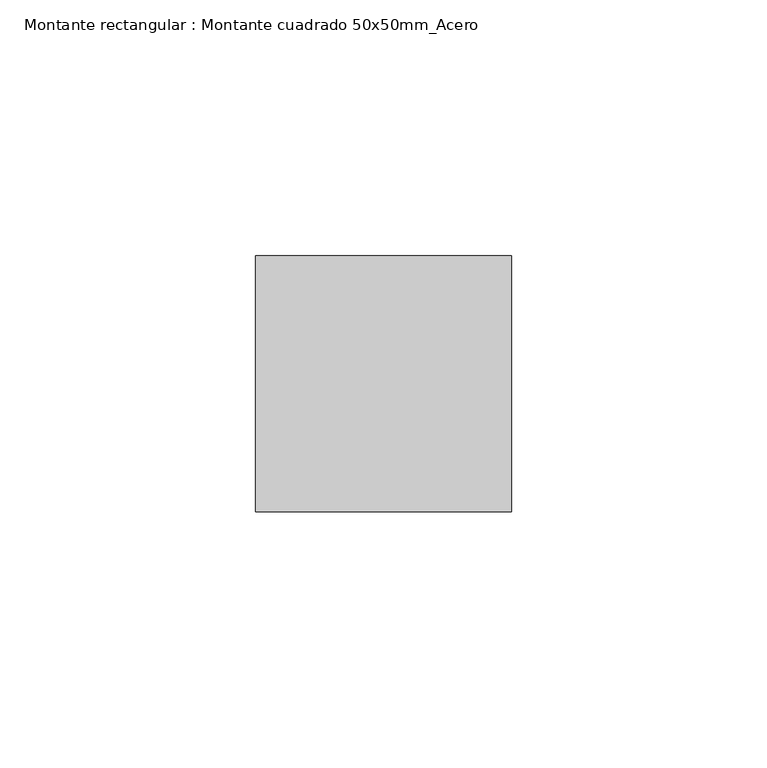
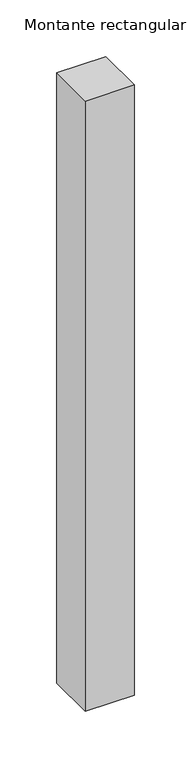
"""IFC4 building model written with IfcOpenShell, lengths in millimetres: member geometry, Montante rectangular : Montante cuadrado 50x50mm_Acero."""

from ifc_helpers import new_model, si_unit, frame, origin, place, context, project, spatial, polyline, outline, extrude, source, transform, mapped, element, save


def montante_rectangular_montante_cuadrado_50x50mm_acero_05e5c9b3(model_context):
    return source(origin(), model_context, "Body", "SweptSolid", [
        extrude(outline(polyline([(-50.0, 0.0), (-50.0, 50.0), (0.0, 50.0), (0.0, 0.0), (-50.0, 0.0)])), frame((0.0, 0.0, -657.2582354), z_axis=(0.0, 0.0, 1.0), x_axis=(1.0, 0.0, 0.0)), (0.0, 0.0, 1.0), 657.2582354),
    ])


if __name__ == "__main__":
    model = new_model("IFC4")
    model_context = context("Model", 3, world=origin())
    ifc_project = project(units=[si_unit("LENGTHUNIT", "METRE", prefix="MILLI")], contexts=[model_context])
    site = spatial("IfcSite", under=ifc_project)
    building = spatial("IfcBuilding", under=site)
    placement = place(None, origin())
    montante_rectangular_montante_cuadrado_50x50mm_acero_shape = montante_rectangular_montante_cuadrado_50x50mm_acero_05e5c9b3(model_context)
    element("IfcMember", 1, ObjectType="Montante rectangular : Montante cuadrado 50x50mm_Acero", at=placement, inside=building, context=model_context, shape_type="MappedRepresentation", body=[
        mapped(montante_rectangular_montante_cuadrado_50x50mm_acero_shape, transform((0.0, 0.0, 0.0), x_axis=(1.0, 0.0, 0.0), y_axis=(0.0, 1.0, 0.0), z_axis=(0.0, 0.0, 1.0))),
    ])
    save(model, "model.ifc")
